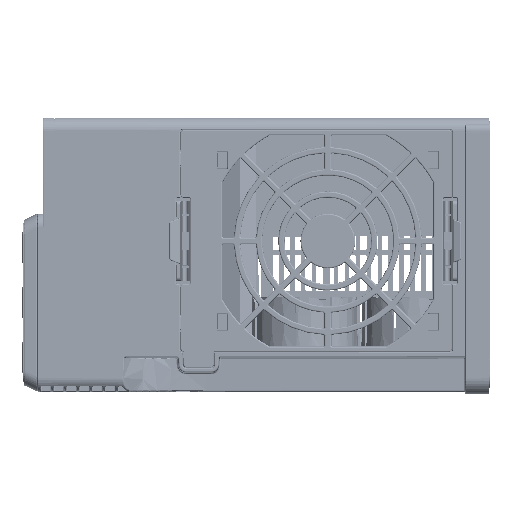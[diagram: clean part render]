
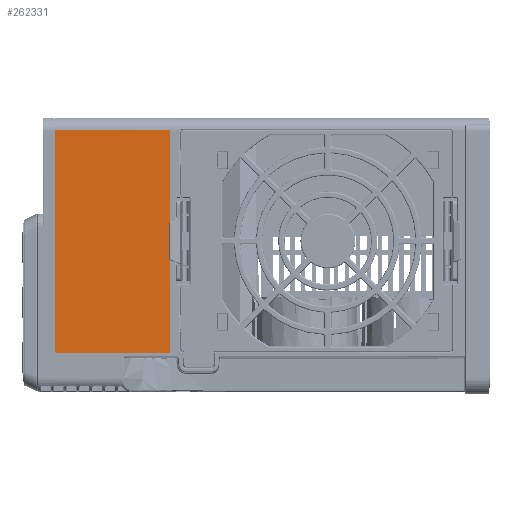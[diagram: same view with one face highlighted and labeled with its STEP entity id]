
A CAD part, left-side view. The second image highlights one B-rep face of the part: STEP entity #262331.
In plain terms, the highlighted planar face has unit normal (-1, 0, 0).
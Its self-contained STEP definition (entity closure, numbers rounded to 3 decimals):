
#12401=PLANE('',#278973);
#24277=FACE_OUTER_BOUND('',#39428,.T.);
#39428=EDGE_LOOP('',(#207474,#207475,#207476,#207477,#207478,#207479,#207480,
#207481));
#50985=CIRCLE('',#278972,0.5);
#50986=CIRCLE('',#278974,0.5);
#50987=CIRCLE('',#278975,0.5);
#50988=CIRCLE('',#278976,0.5);
#62471=LINE('',#468762,#91285);
#68321=LINE('',#508954,#97135);
#68322=LINE('',#508958,#97136);
#68323=LINE('',#508962,#97137);
#91285=VECTOR('',#302066,80.324);
#97135=VECTOR('',#317142,41.);
#97136=VECTOR('',#317145,80.324);
#97137=VECTOR('',#317148,41.);
#120176=VERTEX_POINT('',#468760);
#120177=VERTEX_POINT('',#468761);
#126146=VERTEX_POINT('',#508949);
#126147=VERTEX_POINT('',#508953);
#126148=VERTEX_POINT('',#508955);
#126149=VERTEX_POINT('',#508957);
#126150=VERTEX_POINT('',#508959);
#126151=VERTEX_POINT('',#508961);
#147233=EDGE_CURVE('',#120176,#120177,#62471,.T.);
#155709=EDGE_CURVE('',#126146,#120176,#50985,.T.);
#155711=EDGE_CURVE('',#126147,#126146,#68321,.T.);
#155712=EDGE_CURVE('',#126147,#126148,#50986,.T.);
#155713=EDGE_CURVE('',#126149,#126148,#68322,.T.);
#155714=EDGE_CURVE('',#126149,#126150,#50987,.T.);
#155715=EDGE_CURVE('',#126150,#126151,#68323,.T.);
#155716=EDGE_CURVE('',#126151,#120177,#50988,.T.);
#207474=ORIENTED_EDGE('',*,*,#147233,.F.);
#207475=ORIENTED_EDGE('',*,*,#155709,.F.);
#207476=ORIENTED_EDGE('',*,*,#155711,.F.);
#207477=ORIENTED_EDGE('',*,*,#155712,.T.);
#207478=ORIENTED_EDGE('',*,*,#155713,.F.);
#207479=ORIENTED_EDGE('',*,*,#155714,.T.);
#207480=ORIENTED_EDGE('',*,*,#155715,.T.);
#207481=ORIENTED_EDGE('',*,*,#155716,.T.);
#262331=ADVANCED_FACE('',(#24277),#12401,.T.);
#278972=AXIS2_PLACEMENT_3D('',#508950,#317137,#317138);
#278973=AXIS2_PLACEMENT_3D('',#508952,#317140,#317141);
#278974=AXIS2_PLACEMENT_3D('',#508956,#317143,#317144);
#278975=AXIS2_PLACEMENT_3D('',#508960,#317146,#317147);
#278976=AXIS2_PLACEMENT_3D('',#508963,#317149,#317150);
#302066=DIRECTION('',(0.,0.,1.));
#317137=DIRECTION('center_axis',(1.,0.,0.));
#317138=DIRECTION('ref_axis',(0.,0.,-1.));
#317140=DIRECTION('center_axis',(-1.,0.,0.));
#317141=DIRECTION('ref_axis',(0.,0.,1.));
#317142=DIRECTION('',(0.,1.,0.));
#317143=DIRECTION('center_axis',(-1.,0.,0.));
#317144=DIRECTION('ref_axis',(0.,0.,-1.));
#317145=DIRECTION('',(0.,0.,-1.));
#317146=DIRECTION('center_axis',(-1.,0.,0.));
#317147=DIRECTION('ref_axis',(0.,-1.,0.));
#317148=DIRECTION('',(0.,1.,0.));
#317149=DIRECTION('center_axis',(-1.,0.,0.));
#317150=DIRECTION('ref_axis',(0.,0.,1.));
#468760=CARTESIAN_POINT('',(-114.85,63.5,-35.35));
#468761=CARTESIAN_POINT('',(-114.85,63.5,44.974));
#468762=CARTESIAN_POINT('',(-114.85,63.5,-35.35));
#508949=CARTESIAN_POINT('',(-114.85,63.,-35.85));
#508950=CARTESIAN_POINT('Origin',(-114.85,63.,-35.35));
#508952=CARTESIAN_POINT('Origin',(-114.85,-95.,0.));
#508953=CARTESIAN_POINT('',(-114.85,22.,-35.85));
#508954=CARTESIAN_POINT('',(-114.85,22.,-35.85));
#508955=CARTESIAN_POINT('',(-114.85,21.5,-35.35));
#508956=CARTESIAN_POINT('Origin',(-114.85,22.,-35.35));
#508957=CARTESIAN_POINT('',(-114.85,21.5,44.974));
#508958=CARTESIAN_POINT('',(-114.85,21.5,44.974));
#508959=CARTESIAN_POINT('',(-114.85,22.,45.474));
#508960=CARTESIAN_POINT('Origin',(-114.85,22.,44.974));
#508961=CARTESIAN_POINT('',(-114.85,63.,45.474));
#508962=CARTESIAN_POINT('',(-114.85,22.,45.474));
#508963=CARTESIAN_POINT('Origin',(-114.85,63.,44.974));
